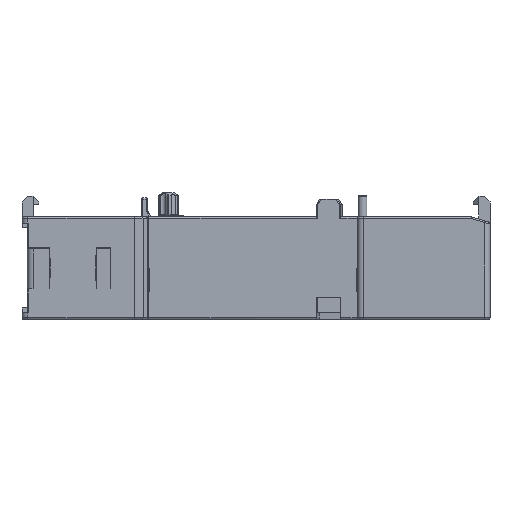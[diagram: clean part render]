
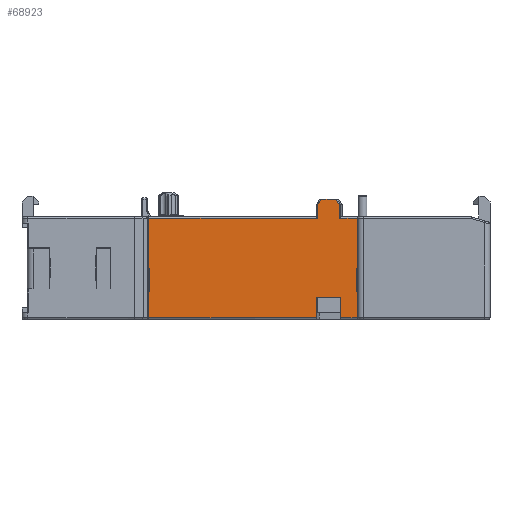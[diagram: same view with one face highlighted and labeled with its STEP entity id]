
A CAD part, front view. The second image highlights one B-rep face of the part: STEP entity #68923.
In plain terms, the highlighted planar face has unit normal (0, -1, 0).
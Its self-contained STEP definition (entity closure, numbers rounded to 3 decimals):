
#136=DIRECTION('',(0.,0.,1.));
#137=VECTOR('',#136,4.55);
#138=CARTESIAN_POINT('',(9.9,-46.,0.3));
#139=LINE('',#138,#137);
#152=DIRECTION('',(-1.,0.,0.));
#153=VECTOR('',#152,0.1);
#154=CARTESIAN_POINT('',(9.9,-46.,8.85));
#155=LINE('',#154,#153);
#18749=DIRECTION('',(0.,0.,-1.));
#18750=VECTOR('',#18749,2.246);
#18751=CARTESIAN_POINT('',(2.992,-46.,19.646));
#18752=LINE('',#18751,#18750);
#18773=DIRECTION('',(1.,0.,0.));
#18774=VECTOR('',#18773,0.1);
#18775=CARTESIAN_POINT('',(-26.1,-46.,4.85));
#18776=LINE('',#18775,#18774);
#18777=DIRECTION('',(0.,0.,-1.));
#18778=VECTOR('',#18777,8.55);
#18779=CARTESIAN_POINT('',(-26.1,-46.,17.4));
#18780=LINE('',#18779,#18778);
#18781=DIRECTION('',(1.,0.,0.));
#18782=VECTOR('',#18781,29.092);
#18783=CARTESIAN_POINT('',(-26.1,-46.,17.4));
#18784=LINE('',#18783,#18782);
#18785=DIRECTION('',(-0.506,0.,-0.863));
#18786=VECTOR('',#18785,1.221);
#18787=CARTESIAN_POINT('',(3.61,-46.,20.7));
#18788=LINE('',#18787,#18786);
#18789=DIRECTION('',(-0.506,0.,0.863));
#18790=VECTOR('',#18789,1.221);
#18791=CARTESIAN_POINT('',(6.851,-46.,19.646));
#18792=LINE('',#18791,#18790);
#18793=DIRECTION('',(1.,0.,0.));
#18794=VECTOR('',#18793,3.049);
#18795=CARTESIAN_POINT('',(6.851,-46.,17.4));
#18796=LINE('',#18795,#18794);
#18797=DIRECTION('',(0.,0.,-1.));
#18798=VECTOR('',#18797,8.55);
#18799=CARTESIAN_POINT('',(9.9,-46.,17.4));
#18800=LINE('',#18799,#18798);
#18801=DIRECTION('',(0.,0.,-1.));
#18802=VECTOR('',#18801,4.);
#18803=CARTESIAN_POINT('',(9.8,-46.,8.85));
#18804=LINE('',#18803,#18802);
#18805=DIRECTION('',(1.,0.,0.));
#18806=VECTOR('',#18805,0.1);
#18807=CARTESIAN_POINT('',(9.8,-46.,4.85));
#18808=LINE('',#18807,#18806);
#18809=DIRECTION('',(-1.,0.,0.));
#18810=VECTOR('',#18809,2.932);
#18811=CARTESIAN_POINT('',(9.9,-46.,0.3));
#18812=LINE('',#18811,#18810);
#18813=DIRECTION('',(0.,0.,1.));
#18814=VECTOR('',#18813,3.5);
#18815=CARTESIAN_POINT('',(6.968,-46.,0.3));
#18816=LINE('',#18815,#18814);
#18817=DIRECTION('',(-1.,0.,0.));
#18818=VECTOR('',#18817,4.163);
#18819=CARTESIAN_POINT('',(6.968,-46.,3.8));
#18820=LINE('',#18819,#18818);
#18821=DIRECTION('',(0.,0.,1.));
#18822=VECTOR('',#18821,3.5);
#18823=CARTESIAN_POINT('',(2.805,-46.,0.3));
#18824=LINE('',#18823,#18822);
#18825=DIRECTION('',(-1.,0.,0.));
#18826=VECTOR('',#18825,28.905);
#18827=CARTESIAN_POINT('',(2.805,-46.,0.3));
#18828=LINE('',#18827,#18826);
#18829=DIRECTION('',(0.,0.,1.));
#18830=VECTOR('',#18829,4.55);
#18831=CARTESIAN_POINT('',(-26.1,-46.,0.3));
#18832=LINE('',#18831,#18830);
#18857=DIRECTION('',(0.,0.,-1.));
#18858=VECTOR('',#18857,4.);
#18859=CARTESIAN_POINT('',(-26.,-46.,8.85));
#18860=LINE('',#18859,#18858);
#18861=DIRECTION('',(-1.,0.,0.));
#18862=VECTOR('',#18861,0.1);
#18863=CARTESIAN_POINT('',(-26.,-46.,8.85));
#18864=LINE('',#18863,#18862);
#19003=CARTESIAN_POINT('',(2.805,-46.,0.3));
#19045=CARTESIAN_POINT('',(6.968,-46.,0.3));
#32621=CARTESIAN_POINT('',(3.61,-46.,20.7));
#32667=CARTESIAN_POINT('',(6.233,-46.,20.7));
#32672=DIRECTION('',(1.,0.,0.));
#32673=VECTOR('',#32672,2.623);
#32674=CARTESIAN_POINT('',(3.61,-46.,20.7));
#32675=LINE('',#32674,#32673);
#32829=DIRECTION('',(0.,0.,1.));
#32830=VECTOR('',#32829,2.246);
#32831=CARTESIAN_POINT('',(6.851,-46.,17.4));
#32832=LINE('',#32831,#32830);
#36240=CARTESIAN_POINT('',(-26.1,-46.,4.85));
#36241=VERTEX_POINT('',#36240);
#36242=CARTESIAN_POINT('',(9.9,-46.,4.85));
#36243=VERTEX_POINT('',#36242);
#36657=CARTESIAN_POINT('',(6.968,-46.,3.8));
#36658=CARTESIAN_POINT('',(2.805,-46.,3.8));
#36659=VERTEX_POINT('',#36657);
#36660=VERTEX_POINT('',#36658);
#37531=CARTESIAN_POINT('',(9.9,-46.,0.3));
#37532=VERTEX_POINT('',#37531);
#37536=VERTEX_POINT('',#19045);
#37565=VERTEX_POINT('',#19003);
#37569=CARTESIAN_POINT('',(-26.1,-46.,0.3));
#37570=VERTEX_POINT('',#37569);
#42457=CARTESIAN_POINT('',(9.8,-46.,8.85));
#42459=VERTEX_POINT('',#42457);
#42460=CARTESIAN_POINT('',(-26.,-46.,8.85));
#42462=VERTEX_POINT('',#42460);
#43154=CARTESIAN_POINT('',(-26.1,-46.,17.4));
#43155=VERTEX_POINT('',#43154);
#43158=CARTESIAN_POINT('',(2.992,-46.,17.4));
#43159=VERTEX_POINT('',#43158);
#43174=CARTESIAN_POINT('',(9.9,-46.,17.4));
#43175=VERTEX_POINT('',#43174);
#43712=VERTEX_POINT('',#32621);
#43713=CARTESIAN_POINT('',(2.992,-46.,19.646));
#43714=VERTEX_POINT('',#43713);
#43733=VERTEX_POINT('',#32667);
#43737=CARTESIAN_POINT('',(6.851,-46.,19.646));
#43738=VERTEX_POINT('',#43737);
#43741=CARTESIAN_POINT('',(6.851,-46.,17.4));
#43742=VERTEX_POINT('',#43741);
#44410=CARTESIAN_POINT('',(9.9,-46.,8.85));
#44412=VERTEX_POINT('',#44410);
#44587=CARTESIAN_POINT('',(-26.1,-46.,8.85));
#44588=VERTEX_POINT('',#44587);
#44593=CARTESIAN_POINT('',(9.8,-46.,4.85));
#44594=VERTEX_POINT('',#44593);
#44595=CARTESIAN_POINT('',(-26.,-46.,4.85));
#44596=VERTEX_POINT('',#44595);
#68877=CARTESIAN_POINT('',(-27.1,-46.,1.15));
#68878=DIRECTION('',(0.,-1.,0.));
#68879=DIRECTION('',(1.,0.,0.));
#68880=AXIS2_PLACEMENT_3D('',#68877,#68878,#68879);
#68881=PLANE('',#68880);
#68883=ORIENTED_EDGE('',*,*,#68882,.T.);
#68885=ORIENTED_EDGE('',*,*,#68884,.F.);
#68887=ORIENTED_EDGE('',*,*,#68886,.T.);
#68889=ORIENTED_EDGE('',*,*,#68888,.F.);
#68890=ORIENTED_EDGE('',*,*,#68839,.T.);
#68891=ORIENTED_EDGE('',*,*,#68866,.F.);
#68893=ORIENTED_EDGE('',*,*,#68892,.F.);
#68895=ORIENTED_EDGE('',*,*,#68894,.T.);
#68897=ORIENTED_EDGE('',*,*,#68896,.F.);
#68899=ORIENTED_EDGE('',*,*,#68898,.F.);
#68901=ORIENTED_EDGE('',*,*,#68900,.T.);
#68902=ORIENTED_EDGE('',*,*,#45064,.T.);
#68903=ORIENTED_EDGE('',*,*,#45092,.T.);
#68905=ORIENTED_EDGE('',*,*,#68904,.T.);
#68907=ORIENTED_EDGE('',*,*,#68906,.T.);
#68908=ORIENTED_EDGE('',*,*,#45071,.F.);
#68910=ORIENTED_EDGE('',*,*,#68909,.T.);
#68912=ORIENTED_EDGE('',*,*,#68911,.T.);
#68914=ORIENTED_EDGE('',*,*,#68913,.T.);
#68916=ORIENTED_EDGE('',*,*,#68915,.F.);
#68918=ORIENTED_EDGE('',*,*,#68917,.T.);
#68920=ORIENTED_EDGE('',*,*,#68919,.T.);
#68921=EDGE_LOOP('',(#68883,#68885,#68887,#68889,#68890,#68891,#68893,#68895,
#68897,#68899,#68901,#68902,#68903,#68905,#68907,#68908,#68910,#68912,#68914,
#68916,#68918,#68920));
#68922=FACE_OUTER_BOUND('',#68921,.F.);
#68923=ADVANCED_FACE('',(#68922),#68881,.T.);
#45064=EDGE_CURVE('',#43175,#44412,#18800,.T.);
#45071=EDGE_CURVE('',#37532,#36243,#139,.T.);
#45092=EDGE_CURVE('',#44412,#42459,#155,.T.);
#68839=EDGE_CURVE('',#43155,#43159,#18784,.T.);
#68866=EDGE_CURVE('',#43714,#43159,#18752,.T.);
#68882=EDGE_CURVE('',#36241,#44596,#18776,.T.);
#68884=EDGE_CURVE('',#42462,#44596,#18860,.T.);
#68886=EDGE_CURVE('',#42462,#44588,#18864,.T.);
#68888=EDGE_CURVE('',#43155,#44588,#18780,.T.);
#68892=EDGE_CURVE('',#43712,#43714,#18788,.T.);
#68894=EDGE_CURVE('',#43712,#43733,#32675,.T.);
#68896=EDGE_CURVE('',#43738,#43733,#18792,.T.);
#68898=EDGE_CURVE('',#43742,#43738,#32832,.T.);
#68900=EDGE_CURVE('',#43742,#43175,#18796,.T.);
#68904=EDGE_CURVE('',#42459,#44594,#18804,.T.);
#68906=EDGE_CURVE('',#44594,#36243,#18808,.T.);
#68909=EDGE_CURVE('',#37532,#37536,#18812,.T.);
#68911=EDGE_CURVE('',#37536,#36659,#18816,.T.);
#68913=EDGE_CURVE('',#36659,#36660,#18820,.T.);
#68915=EDGE_CURVE('',#37565,#36660,#18824,.T.);
#68917=EDGE_CURVE('',#37565,#37570,#18828,.T.);
#68919=EDGE_CURVE('',#37570,#36241,#18832,.T.);
